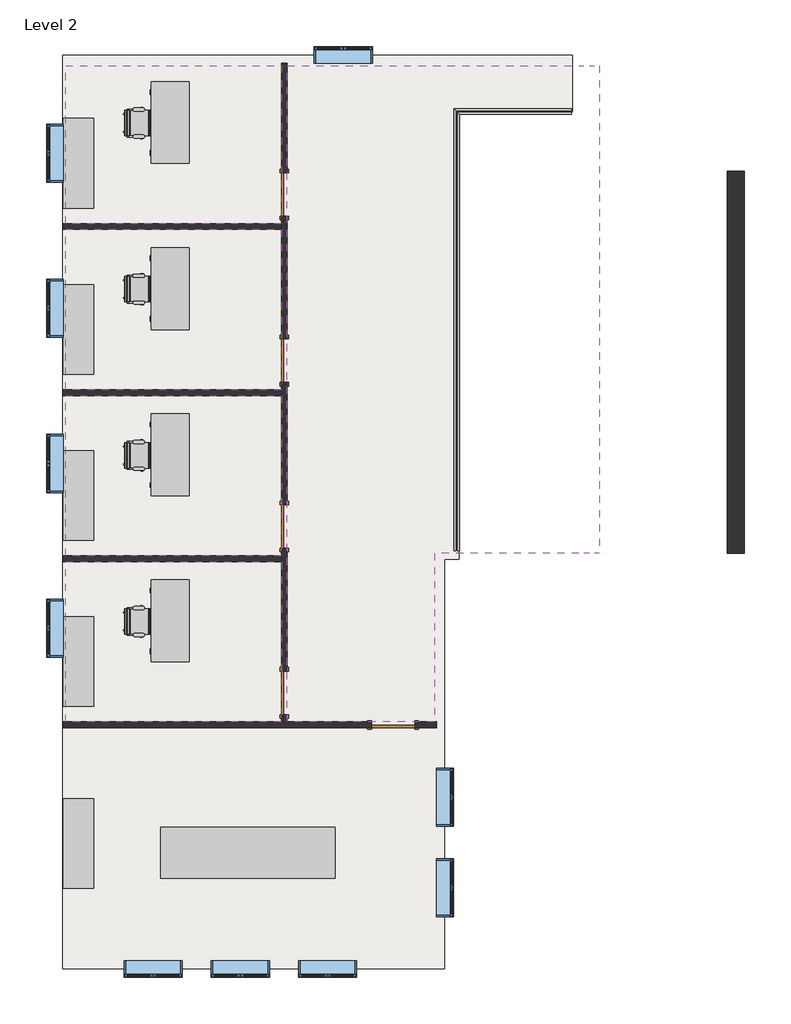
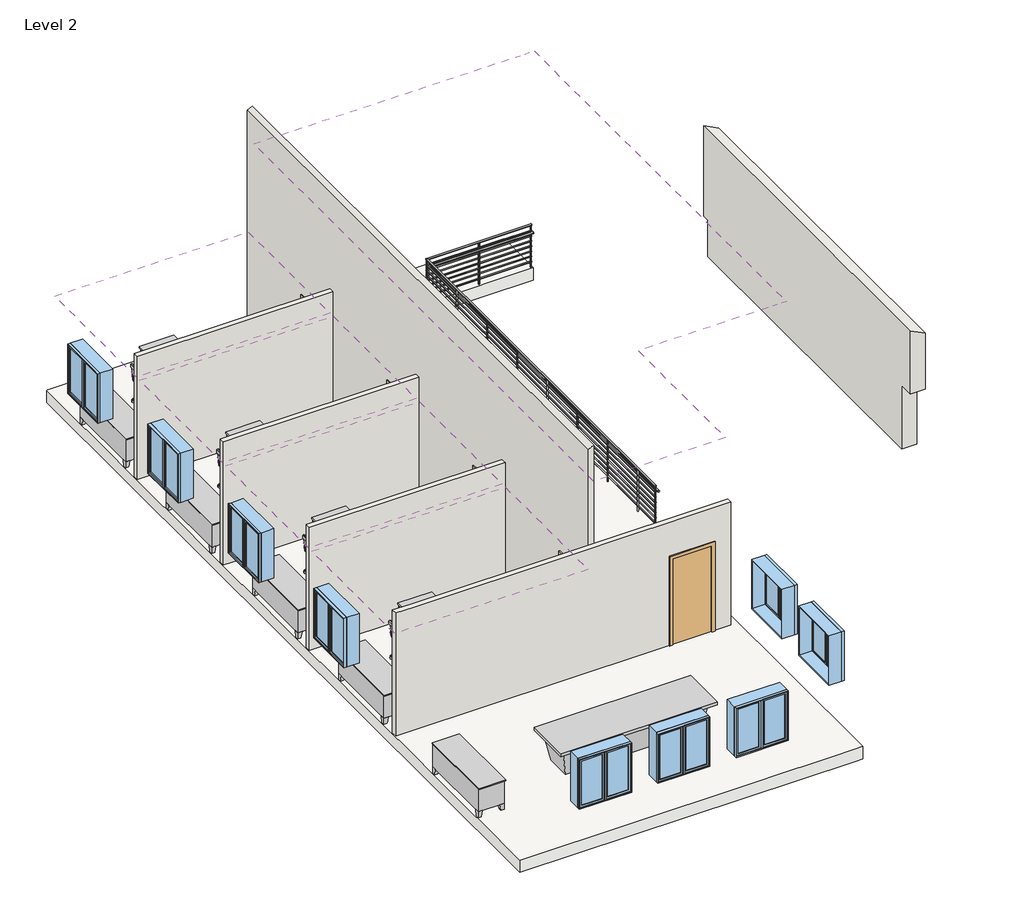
# One storey, incomplete: 14 furniture elements, 10 windows, 6 walls, 5 coverings, 5 doors, 1 railing, 1 slab.
"""IFC4 building model written with IfcOpenShell, lengths in millimetres."""

from ifc_helpers import new_model, si_unit, frame, origin, place, context, project, spatial, polyline, outline, extrude, faceted_brep, transform, mapped, element, save
from components import door_eb9f8b14, chair_task_arms_chair_task_arms_8395c10b, conference_table_complete_42_x_144_00e9c4b6, furniture_5a5a5c8e, furniture_9d33da18, guardrail_pipe_e0ddf7e3, window_75435c65

model = new_model("IFC4")

# Units and contexts
model_context = context("Model", 3, world=origin())
ifc_project = project(units=[si_unit("LENGTHUNIT", "METRE", prefix="MILLI")], contexts=[model_context])

# Site, building, storey
site = spatial("IfcSite", under=ifc_project)
building = spatial("IfcBuilding", under=site)
storey = spatial("IfcBuildingStorey", under=building, Name="Level 2", Elevation=3060.0)

# Coverings
placement = place(None, origin())
element("IfcCovering", 1, ObjectType="2' x 4' ACT System", at=placement, inside=storey, context=model_context, shape_type="SweptSolid", body=[
    extrude(outline(polyline([(-9011.7016552, 7211.1980424), (-13532.9016552, 7211.1980424), (-13532.9016552, 10517.9605424), (-9011.7016552, 10517.9605424), (-9011.7016552, 7211.1980424)])), frame((0.0, 0.0, 5498.4), z_axis=(0.0, 0.0, 1.0), x_axis=(1.0, 0.0, 0.0)), (0.0, 0.0, 1.0), 57.15),
])
element("IfcCovering", 2, ObjectType="2' x 4' ACT System", at=placement, inside=storey, context=model_context, shape_type="SweptSolid", body=[
    extrude(outline(polyline([(-9011.7016552, 3729.8105424), (-13532.9016552, 3729.8105424), (-13532.9016552, 7087.3730424), (-9011.7016552, 7087.3730424), (-9011.7016552, 3729.8105424)])), frame((0.0, 0.0, 5498.4), z_axis=(0.0, 0.0, 1.0), x_axis=(1.0, 0.0, 0.0)), (0.0, 0.0, 1.0), 57.15),
])
element("IfcCovering", 3, ObjectType="2' x 4' ACT System", at=placement, inside=storey, context=model_context, shape_type="SweptSolid", body=[
    extrude(outline(polyline([(-9011.7016552, 248.4230424), (-13532.9016552, 248.4230424), (-13532.9016552, 3605.9855424), (-9011.7016552, 3605.9855424), (-9011.7016552, 248.4230424)])), frame((0.0, 0.0, 5498.4), z_axis=(0.0, 0.0, 1.0), x_axis=(1.0, 0.0, 0.0)), (0.0, 0.0, 1.0), 57.15),
])
element("IfcCovering", 4, ObjectType="2' x 4' ACT System", at=placement, inside=storey, context=model_context, shape_type="SweptSolid", body=[
    extrude(outline(polyline([(-9011.7016552, -3232.9644576), (-13532.9016552, -3232.9644576), (-13532.9016552, 124.5980424), (-9011.7016552, 124.5980424), (-9011.7016552, -3232.9644576)])), frame((0.0, 0.0, 5498.4), z_axis=(0.0, 0.0, 1.0), x_axis=(1.0, 0.0, 0.0)), (0.0, 0.0, 1.0), 57.15),
])
element("IfcCovering", 5, ObjectType="5/8\" GWB on Mtl. Stud", at=placement, inside=storey, context=model_context, shape_type="Brep", body=[
    faceted_brep([(-2339.5447142, 10517.9605424, 7739.95), (-2772.9516552, 10517.9605424, 7739.95), (-8887.8766552, 10517.9605424, 7739.95), (-8887.8766552, -3232.9644576, 7739.95), (-5804.9516552, -3232.9644576, 7739.95), (-5804.9516552, 307.1605424, 7739.95), (-2772.9516552, 307.1605424, 7739.95), (-2339.5447142, 307.1605424, 7739.95), (-2339.5447142, 10517.9605424, 7632.0), (-2339.5447142, 307.1605424, 7632.0), (-2557.0516552, 307.1605424, 7632.0), (-5804.9516552, 307.1605424, 7632.0), (-5804.9516552, -3232.9644576, 7632.0), (-8887.8766552, -3232.9644576, 7632.0), (-8887.8766552, 10517.9605424, 7632.0), (-2557.0516552, 10517.9605424, 7632.0)], [[[0, 1, 2, 3, 4, 5, 6, 7]], [[8, 9, 10, 11, 12, 13, 14, 15]], [[2, 1, 0, 8, 15, 14]], [[3, 2, 14, 13]], [[4, 3, 13, 12]], [[5, 4, 12, 11]], [[7, 6, 5, 11, 10, 9]], [[0, 7, 9, 8]]]),
])

# Doors
door_shape = door_eb9f8b14(model_context)
element("IfcDoor", 6, ObjectType="Single-Flush : 36\" x 84\"", at=placement, inside=storey, context=model_context, shape_type="MappedRepresentation", body=[
    mapped(door_shape, transform((-6668.5516552, -3294.8769576, 3060.0), x_axis=(1.0, 0.0, 0.0), y_axis=(0.0, 1.0, 0.0), z_axis=(0.0, 0.0, 1.0))),
])
element("IfcDoor", 7, ObjectType="Single-Flush : 36\" x 84\"", at=placement, inside=storey, context=model_context, shape_type="MappedRepresentation", body=[
    mapped(door_shape, transform((-8949.7891552, -2623.3644576, 3060.0), x_axis=(0.0, -1.0, 0.0), y_axis=(1.0, 0.0, 0.0), z_axis=(0.0, 0.0, 1.0))),
])
element("IfcDoor", 8, ObjectType="Single-Flush : 36\" x 84\"", at=placement, inside=storey, context=model_context, shape_type="MappedRepresentation", body=[
    mapped(door_shape, transform((-8949.7891552, 862.7855424, 3060.0), x_axis=(0.0, -1.0, 0.0), y_axis=(1.0, 0.0, 0.0), z_axis=(0.0, 0.0, 1.0))),
])
element("IfcDoor", 9, ObjectType="Single-Flush : 36\" x 84\"", at=placement, inside=storey, context=model_context, shape_type="MappedRepresentation", body=[
    mapped(door_shape, transform((-8949.7891552, 4339.4105424, 3060.0), x_axis=(0.0, -1.0, 0.0), y_axis=(1.0, 0.0, 0.0), z_axis=(0.0, 0.0, 1.0))),
])
element("IfcDoor", 10, ObjectType="Single-Flush : 36\" x 84\"", at=placement, inside=storey, context=model_context, shape_type="MappedRepresentation", body=[
    mapped(door_shape, transform((-8949.7891552, 7820.7980424, 3060.0), x_axis=(0.0, -1.0, 0.0), y_axis=(1.0, 0.0, 0.0), z_axis=(0.0, 0.0, 1.0))),
])

# Furniture
chair_task_arms_chair_task_arms_shape = chair_task_arms_chair_task_arms_8395c10b(model_context)
element("IfcFurniture", 11, ObjectType="Chair-Task Arms : Chair-Task Arms", at=placement, inside=storey, context=model_context, shape_type="MappedRepresentation", body=[
    mapped(chair_task_arms_chair_task_arms_shape, transform((-12048.1356286, -1267.3427772, 3060.0), x_axis=(0.0, 1.0, 0.0), y_axis=(-1.0, 0.0, 0.0), z_axis=(0.0, 0.0, 1.0))),
])
element("IfcFurniture", 12, ObjectType="Chair-Task Arms : Chair-Task Arms", at=placement, inside=storey, context=model_context, shape_type="MappedRepresentation", body=[
    mapped(chair_task_arms_chair_task_arms_shape, transform((-12048.1356286, 2214.0447228, 3060.0), x_axis=(0.0, 1.0, 0.0), y_axis=(-1.0, 0.0, 0.0), z_axis=(0.0, 0.0, 1.0))),
])
element("IfcFurniture", 13, ObjectType="Chair-Task Arms : Chair-Task Arms", at=placement, inside=storey, context=model_context, shape_type="MappedRepresentation", body=[
    mapped(chair_task_arms_chair_task_arms_shape, transform((-12048.1356286, 5695.4322228, 3060.0), x_axis=(0.0, 1.0, 0.0), y_axis=(-1.0, 0.0, 0.0), z_axis=(0.0, 0.0, 1.0))),
])
element("IfcFurniture", 14, ObjectType="Chair-Task Arms : Chair-Task Arms", at=placement, inside=storey, context=model_context, shape_type="MappedRepresentation", body=[
    mapped(chair_task_arms_chair_task_arms_shape, transform((-12048.1356286, 9176.8197228, 3060.0), x_axis=(0.0, 1.0, 0.0), y_axis=(-1.0, 0.0, 0.0), z_axis=(0.0, 0.0, 1.0))),
])
conference_table_complete_42_x_144_shape = conference_table_complete_42_x_144_00e9c4b6(model_context)
element("IfcFurniture", 15, ObjectType="Conference Table-Complete : 42 x 144", at=placement, inside=storey, context=model_context, shape_type="MappedRepresentation", body=[
    mapped(conference_table_complete_42_x_144_shape, transform((-9715.5836955, -5969.8356111, 3060.0), x_axis=(1.0, 0.0, 0.0), y_axis=(0.0, 1.0, 0.0), z_axis=(0.0, 0.0, 1.0))),
])
furniture_shape = furniture_5a5a5c8e(model_context)
element("IfcFurniture", 16, ObjectType="Credenza : 72\" x 24\"", at=placement, inside=storey, context=model_context, shape_type="MappedRepresentation", body=[
    mapped(furniture_shape, transform((-13274.3213273, -1908.6485326, 3060.0), x_axis=(0.0, -1.0, 0.0), y_axis=(1.0, 0.0, 0.0), z_axis=(0.0, 0.0, 1.0))),
])
element("IfcFurniture", 17, ObjectType="Credenza : 72\" x 24\"", at=placement, inside=storey, context=model_context, shape_type="MappedRepresentation", body=[
    mapped(furniture_shape, transform((-13274.3213273, -5718.6485326, 3060.0), x_axis=(0.0, -1.0, 0.0), y_axis=(1.0, 0.0, 0.0), z_axis=(0.0, 0.0, 1.0))),
])
element("IfcFurniture", 18, ObjectType="Credenza : 72\" x 24\"", at=placement, inside=storey, context=model_context, shape_type="MappedRepresentation", body=[
    mapped(furniture_shape, transform((-13274.3213273, 1572.7389674, 3060.0), x_axis=(0.0, -1.0, 0.0), y_axis=(1.0, 0.0, 0.0), z_axis=(0.0, 0.0, 1.0))),
])
element("IfcFurniture", 19, ObjectType="Credenza : 72\" x 24\"", at=placement, inside=storey, context=model_context, shape_type="MappedRepresentation", body=[
    mapped(furniture_shape, transform((-13274.3213273, 5054.1264674, 3060.0), x_axis=(0.0, -1.0, 0.0), y_axis=(1.0, 0.0, 0.0), z_axis=(0.0, 0.0, 1.0))),
])
element("IfcFurniture", 20, ObjectType="Credenza : 72\" x 24\"", at=placement, inside=storey, context=model_context, shape_type="MappedRepresentation", body=[
    mapped(furniture_shape, transform((-13274.3213273, 8535.5139674, 3060.0), x_axis=(0.0, -1.0, 0.0), y_axis=(1.0, 0.0, 0.0), z_axis=(0.0, 0.0, 1.0))),
])
furniture_2_shape = furniture_9d33da18(model_context)
element("IfcFurniture", 21, ObjectType="Desk1 : 66\" x 30\"", at=placement, inside=storey, context=model_context, shape_type="MappedRepresentation", body=[
    mapped(furniture_2_shape, transform((-10962.389727, -275.4519576, 3060.0), x_axis=(0.0, -1.0, 0.0), y_axis=(1.0, 0.0, 0.0), z_axis=(0.0, 0.0, 1.0))),
])
element("IfcFurniture", 22, ObjectType="Desk1 : 66\" x 30\"", at=placement, inside=storey, context=model_context, shape_type="MappedRepresentation", body=[
    mapped(furniture_2_shape, transform((-10962.389727, 3205.9355424, 3060.0), x_axis=(0.0, -1.0, 0.0), y_axis=(1.0, 0.0, 0.0), z_axis=(0.0, 0.0, 1.0))),
])
element("IfcFurniture", 23, ObjectType="Desk1 : 66\" x 30\"", at=placement, inside=storey, context=model_context, shape_type="MappedRepresentation", body=[
    mapped(furniture_2_shape, transform((-10962.389727, 6687.3230424, 3060.0), x_axis=(0.0, -1.0, 0.0), y_axis=(1.0, 0.0, 0.0), z_axis=(0.0, 0.0, 1.0))),
])
element("IfcFurniture", 24, ObjectType="Desk1 : 66\" x 30\"", at=placement, inside=storey, context=model_context, shape_type="MappedRepresentation", body=[
    mapped(furniture_2_shape, transform((-10962.389727, 10168.7105424, 3060.0), x_axis=(0.0, -1.0, 0.0), y_axis=(1.0, 0.0, 0.0), z_axis=(0.0, 0.0, 1.0))),
])

# Railing
guardrail_pipe_shape = guardrail_pipe_e0ddf7e3(model_context)
element("IfcRailing", 25, ObjectType="Guardrail - Pipe", at=placement, inside=storey, context=model_context, shape_type="MappedRepresentation", body=[
    mapped(guardrail_pipe_shape, transform((0.0, 0.0, 0.0), x_axis=(1.0, 0.0, 0.0), y_axis=(0.0, 1.0, 0.0), z_axis=(0.0, 0.0, 1.0))),
])

# Slab
element("IfcSlab", 26, ObjectType="Generic - 12\"", at=placement, inside=storey, context=model_context, shape_type="Brep", body=[
    faceted_brep([(-13596.4016552, 10733.8605424, 2755.2), (-13583.7016552, 10733.8605424, 2755.2), (-5093.7516552, 10733.8605424, 2755.2), (-2909.3516552, 10733.8605424, 2755.2), (-2909.3516552, 9554.527236, 2755.2), (-5284.2516552, 9554.527236, 2755.2), (-5284.2516552, 175.3980424, 2755.2), (-5401.7266552, 175.3980424, 2755.2), (-5589.0516552, 175.3980424, 2755.2), (-5589.0516552, -8398.6894576, 2755.2), (-5754.1516552, -8398.6894576, 2755.2), (-13596.4016552, -8398.6894576, 2755.2), (-13596.4016552, -8233.5894576, 2755.2), (-13596.4016552, 10733.8605424, 3060.0), (-13596.4016552, -8233.5894576, 3060.0), (-13596.4016552, -8398.6894576, 3060.0), (-5754.1516552, -8398.6894576, 3060.0), (-5589.0516552, -8398.6894576, 3060.0), (-5589.0516552, 175.3980424, 3060.0), (-5401.7266552, 175.3980424, 3060.0), (-5284.2516552, 175.3980424, 3060.0), (-5284.2516552, 9554.527236, 3060.0), (-2909.3516552, 9554.527236, 3060.0), (-2909.3516552, 10733.8605424, 3060.0), (-5093.7516552, 10733.8605424, 3060.0), (-13583.7016552, 10733.8605424, 3060.0)], [[[0, 1, 2, 3, 4, 5, 6, 7, 8, 9, 10, 11, 12]], [[13, 14, 15, 16, 17, 18, 19, 20, 21, 22, 23, 24, 25]], [[3, 2, 1, 0, 13, 25, 24, 23]], [[4, 3, 23, 22]], [[5, 4, 22, 21]], [[6, 5, 21, 20]], [[8, 7, 6, 20, 19, 18]], [[9, 8, 18, 17]], [[11, 10, 9, 17, 16, 15]], [[0, 12, 11, 15, 14, 13]]]),
])

# Walls
element("IfcWall", 27, ObjectType="Exterior - Brick on Mtl. Stud", at=placement, inside=storey, context=model_context, shape_type="Brep", body=[
    faceted_brep([(341.8483448, 8130.3605424, 3060.0), (341.8483448, 2791.5980424, 3060.0), (341.8483448, 300.8105424, 3060.0), (341.8483448, 300.8105424, 3900.0), (341.8483448, 300.8105424, 4627.075), (341.8483448, -51.6144576, 4627.075), (341.8483448, -51.6144576, 6182.55), (341.8483448, 300.8105424, 6182.55), (341.8483448, 8306.5730424, 6182.55), (341.8483448, 8306.5730424, 3958.7375), (341.8483448, 8130.3605424, 3958.7375), (694.2733448, 8130.3605424, 3060.0), (694.2733448, 8130.3605424, 3958.7375), (694.2733448, 8306.5730424, 3958.7375), (694.2733448, 8306.5730424, 6006.3375), (694.2733448, -51.6144576, 6006.3375), (694.2733448, -51.6144576, 4627.075), (694.2733448, 300.8105424, 4627.075), (694.2733448, 300.8105424, 3060.0), (465.6733448, 8130.3605424, 3060.0), (541.8733448, 8130.3605424, 3060.0)], [[[0, 1, 2, 3, 4, 5, 6, 7, 8, 9, 10]], [[11, 12, 13, 14, 15, 16, 17, 18]], [[2, 1, 0, 19, 20, 11, 18]], [[8, 7, 6, 15, 14]], [[9, 8, 14, 13]], [[9, 13, 12, 10]], [[0, 10, 12, 11, 20, 19]], [[16, 5, 4, 17]], [[4, 3, 2, 18, 17]], [[6, 5, 16, 15]]]),
])
element("IfcWall", 28, ObjectType="Interior - 4 7/8\" Partition (1-hr)", at=placement, inside=storey, context=model_context, shape_type="Brep", body=[
    faceted_brep([(-8887.8766552, 4796.6105424, 3060.0), (-8887.8766552, 7363.5980424, 3060.0), (-8887.8766552, 7363.5980424, 5193.6), (-8887.8766552, 8277.9980424, 5193.6), (-8887.8766552, 8277.9980424, 3060.0), (-8887.8766552, 10568.7605424, 3060.0), (-8887.8766552, 10568.7605424, 8530.4625), (-8887.8766552, -3232.9644576, 8530.4625), (-8887.8766552, -3232.9644576, 3060.0), (-8887.8766552, -3080.5644576, 3060.0), (-8887.8766552, -3080.5644576, 5193.6), (-8887.8766552, -2166.1644576, 5193.6), (-8887.8766552, -2166.1644576, 3060.0), (-8887.8766552, 405.5855424, 3060.0), (-8887.8766552, 405.5855424, 5193.6), (-8887.8766552, 1319.9855424, 5193.6), (-8887.8766552, 1319.9855424, 3060.0), (-8887.8766552, 3882.2105424, 3060.0), (-8887.8766552, 3882.2105424, 5193.6), (-8887.8766552, 4796.6105424, 5193.6), (-9011.7016552, 7363.5980424, 5193.6), (-9011.7016552, 7363.5980424, 3060.0), (-9011.7016552, 7211.1980424, 3060.0), (-9011.7016552, 7087.3730424, 3060.0), (-9011.7016552, 4796.6105424, 3060.0), (-9011.7016552, 4796.6105424, 5193.6), (-9011.7016552, 3882.2105424, 5193.6), (-9011.7016552, 3882.2105424, 3060.0), (-9011.7016552, 3729.8105424, 3060.0), (-9011.7016552, 3605.9855424, 3060.0), (-9011.7016552, 1319.9855424, 3060.0), (-9011.7016552, 1319.9855424, 5193.6), (-9011.7016552, 405.5855424, 5193.6), (-9011.7016552, 405.5855424, 3060.0), (-9011.7016552, 248.4230424, 3060.0), (-9011.7016552, 124.5980424, 3060.0), (-9011.7016552, -2166.1644576, 3060.0), (-9011.7016552, -2166.1644576, 5193.6), (-9011.7016552, -3080.5644576, 5193.6), (-9011.7016552, -3080.5644576, 3060.0), (-9011.7016552, -3232.9644576, 3060.0), (-9011.7016552, -3232.9644576, 8468.55), (-9011.7016552, 10568.7605424, 8468.55), (-9011.7016552, 10568.7605424, 3060.0), (-9011.7016552, 8277.9980424, 3060.0), (-9011.7016552, 8277.9980424, 5193.6)], [[[0, 1, 2, 3, 4, 5, 6, 7, 8, 9, 10, 11, 12, 13, 14, 15, 16, 17, 18, 19]], [[20, 21, 22, 23, 24, 25, 26, 27, 28, 29, 30, 31, 32, 33, 34, 35, 36, 37, 38, 39, 40, 41, 42, 43, 44, 45]], [[40, 39, 9, 8]], [[36, 35, 34, 33, 13, 12]], [[30, 29, 28, 27, 17, 16]], [[44, 43, 5, 4]], [[24, 23, 22, 21, 1, 0]], [[8, 7, 41, 40]], [[10, 9, 39, 38]], [[11, 10, 38, 37]], [[12, 11, 37, 36]], [[14, 13, 33, 32]], [[15, 14, 32, 31]], [[16, 15, 31, 30]], [[18, 17, 27, 26]], [[19, 18, 26, 25]], [[0, 19, 25, 24]], [[2, 1, 21, 20]], [[3, 2, 20, 45]], [[4, 3, 45, 44]], [[7, 6, 42, 41]], [[6, 5, 43, 42]]]),
])
element("IfcWall", 29, ObjectType="Interior - 4 7/8\" Partition (1-hr)", at=placement, inside=storey, context=model_context, shape_type="Brep", body=[
    faceted_brep([(-6211.3516552, -3356.7894576, 5193.6), (-6211.3516552, -3356.7894576, 3060.0), (-5754.1516552, -3356.7894576, 3060.0), (-5754.1516552, -3356.7894576, 6100.0), (-13174.1266552, -3356.7894576, 6100.0), (-13583.7016552, -3356.7894576, 6100.0), (-13583.7016552, -3356.7894576, 3060.0), (-13174.1266552, -3356.7894576, 3060.0), (-7125.7516552, -3356.7894576, 3060.0), (-7125.7516552, -3356.7894576, 5193.6), (-5754.1516552, -3232.9644576, 3060.0), (-6211.3516552, -3232.9644576, 3060.0), (-6211.3516552, -3232.9644576, 5193.6), (-7125.7516552, -3232.9644576, 5193.6), (-7125.7516552, -3232.9644576, 3060.0), (-8887.8766552, -3232.9644576, 3060.0), (-9011.7016552, -3232.9644576, 3060.0), (-13174.1266552, -3232.9644576, 3060.0), (-13583.7016552, -3232.9644576, 3060.0), (-13583.7016552, -3232.9644576, 6100.0), (-13174.1266552, -3232.9644576, 6100.0), (-5754.1516552, -3232.9644576, 6100.0)], [[[0, 1, 2, 3, 4, 5, 6, 7, 8, 9]], [[10, 11, 12, 13, 14, 15, 16, 17, 18, 19, 20, 21]], [[2, 1, 11, 10]], [[8, 7, 6, 18, 17, 16, 15, 14]], [[5, 4, 3, 21, 20, 19]], [[12, 11, 1, 0]], [[13, 12, 0, 9]], [[14, 13, 9, 8]], [[3, 2, 10, 21]], [[6, 5, 19, 18]]]),
])
element("IfcWall", 30, ObjectType="Interior - 4 7/8\" Partition (1-hr)", at=placement, inside=storey, context=model_context, shape_type="SweptSolid", body=[
    extrude(outline(polyline([(-9011.7016552, 124.5980424), (-13583.7016552, 124.5980424), (-13583.7016552, 248.4230424), (-9011.7016552, 248.4230424), (-9011.7016552, 124.5980424)])), frame((0.0, 0.0, 3060.0), z_axis=(0.0, 0.0, 1.0), x_axis=(1.0, 0.0, 0.0)), (0.0, 0.0, 1.0), 3040.0),
])
element("IfcWall", 31, ObjectType="Interior - 4 7/8\" Partition (1-hr)", at=placement, inside=storey, context=model_context, shape_type="Brep", body=[
    faceted_brep([(-13583.7016552, 3605.9855424, 3060.0), (-13174.1266552, 3605.9855424, 3060.0), (-9011.7016552, 3605.9855424, 3060.0), (-9011.7016552, 3605.9855424, 6100.0), (-13174.1266552, 3605.9855424, 6100.0), (-13583.7016552, 3605.9855424, 6100.0), (-13583.7016552, 3729.8105424, 3060.0), (-13583.7016552, 3729.8105424, 6100.0), (-13174.1266552, 3729.8105424, 6100.0), (-9011.7016552, 3729.8105424, 6100.0), (-9011.7016552, 3729.8105424, 3060.0), (-13174.1266552, 3729.8105424, 3060.0)], [[[0, 1, 2, 3, 4, 5]], [[6, 7, 8, 9, 10, 11]], [[2, 1, 0, 6, 11, 10]], [[5, 4, 3, 9, 8, 7]], [[3, 2, 10, 9]], [[0, 5, 7, 6]]]),
])
element("IfcWall", 32, ObjectType="Interior - 4 7/8\" Partition (1-hr)", at=placement, inside=storey, context=model_context, shape_type="SweptSolid", body=[
    extrude(outline(polyline([(-9011.7016552, 7087.3730424), (-13583.7016552, 7087.3730424), (-13583.7016552, 7211.1980424), (-9011.7016552, 7211.1980424), (-9011.7016552, 7087.3730424)])), frame((0.0, 0.0, 3060.0), z_axis=(0.0, 0.0, 1.0), x_axis=(1.0, 0.0, 0.0)), (0.0, 0.0, 1.0), 3040.0),
])

# Windows
window_shape = window_75435c65(model_context)
element("IfcWindow", 33, ObjectType="Casement Double : 48\" x 48\"", at=placement, inside=storey, context=model_context, shape_type="MappedRepresentation", body=[
    mapped(window_shape, transform((-13740.8641552, -1270.8144576, 3060.0), x_axis=(0.0, 1.0, 0.0), y_axis=(-1.0, 0.0, 0.0), z_axis=(0.0, 0.0, 1.0))),
])
element("IfcWindow", 34, ObjectType="Casement Double : 48\" x 48\"", at=placement, inside=storey, context=model_context, shape_type="MappedRepresentation", body=[
    mapped(window_shape, transform((-13740.8641552, 2183.5855424, 3060.0), x_axis=(0.0, 1.0, 0.0), y_axis=(-1.0, 0.0, 0.0), z_axis=(0.0, 0.0, 1.0))),
])
element("IfcWindow", 35, ObjectType="Casement Double : 48\" x 48\"", at=placement, inside=storey, context=model_context, shape_type="MappedRepresentation", body=[
    mapped(window_shape, transform((-13740.8641552, 5434.7855424, 3060.0), x_axis=(0.0, 1.0, 0.0), y_axis=(-1.0, 0.0, 0.0), z_axis=(0.0, 0.0, 1.0))),
])
element("IfcWindow", 36, ObjectType="Casement Double : 48\" x 48\"", at=placement, inside=storey, context=model_context, shape_type="MappedRepresentation", body=[
    mapped(window_shape, transform((-13740.8641552, 8685.9855424, 3060.0), x_axis=(0.0, 1.0, 0.0), y_axis=(-1.0, 0.0, 0.0), z_axis=(0.0, 0.0, 1.0))),
])
element("IfcWindow", 37, ObjectType="Casement Double : 48\" x 48\"", at=placement, inside=storey, context=model_context, shape_type="MappedRepresentation", body=[
    mapped(window_shape, transform((-11700.9266552, -8390.7519576, 3060.0), x_axis=(-1.0, 0.0, 0.0), y_axis=(0.0, -1.0, 0.0), z_axis=(0.0, 0.0, 1.0))),
])
element("IfcWindow", 38, ObjectType="Casement Double : 48\" x 48\"", at=placement, inside=storey, context=model_context, shape_type="MappedRepresentation", body=[
    mapped(window_shape, transform((-9872.1266552, -8390.7519576, 3060.0), x_axis=(-1.0, 0.0, 0.0), y_axis=(0.0, -1.0, 0.0), z_axis=(0.0, 0.0, 1.0))),
])
element("IfcWindow", 39, ObjectType="Casement Double : 48\" x 48\"", at=placement, inside=storey, context=model_context, shape_type="MappedRepresentation", body=[
    mapped(window_shape, transform((-8043.3266552, -8390.7519576, 3060.0), x_axis=(-1.0, 0.0, 0.0), y_axis=(0.0, -1.0, 0.0), z_axis=(0.0, 0.0, 1.0))),
])
element("IfcWindow", 40, ObjectType="Casement Double : 48\" x 48\"", at=placement, inside=storey, context=model_context, shape_type="MappedRepresentation", body=[
    mapped(window_shape, transform((-5596.9891552, -6709.5894576, 3060.0), x_axis=(0.0, -1.0, 0.0), y_axis=(1.0, 0.0, 0.0), z_axis=(0.0, 0.0, 1.0))),
])
element("IfcWindow", 41, ObjectType="Casement Double : 48\" x 48\"", at=placement, inside=storey, context=model_context, shape_type="MappedRepresentation", body=[
    mapped(window_shape, transform((-5596.9891552, -4810.9394576, 3060.0), x_axis=(0.0, -1.0, 0.0), y_axis=(1.0, 0.0, 0.0), z_axis=(0.0, 0.0, 1.0))),
])
element("IfcWindow", 42, ObjectType="Casement Double : 48\" x 48\"", at=placement, inside=storey, context=model_context, shape_type="MappedRepresentation", body=[
    mapped(window_shape, transform((-7713.1266552, 10725.9230424, 3060.0), x_axis=(1.0, 0.0, 0.0), y_axis=(0.0, 1.0, 0.0), z_axis=(0.0, 0.0, 1.0))),
])

save(model, "model.ifc")
